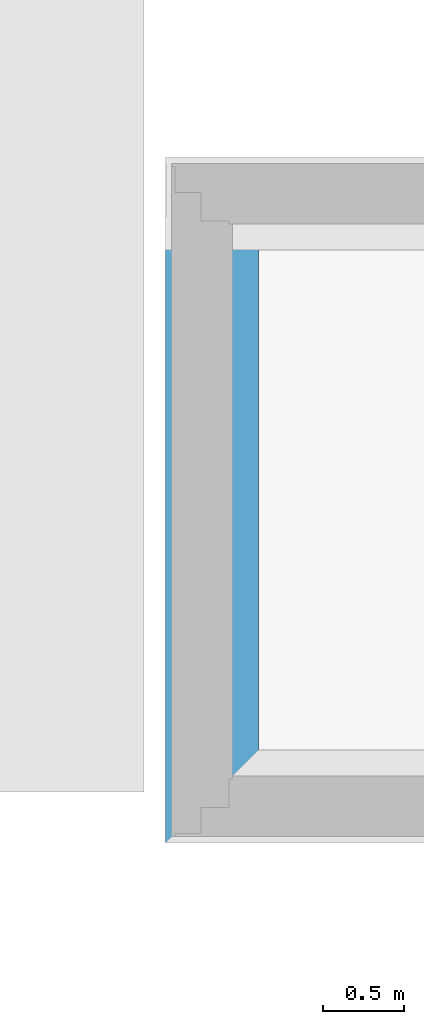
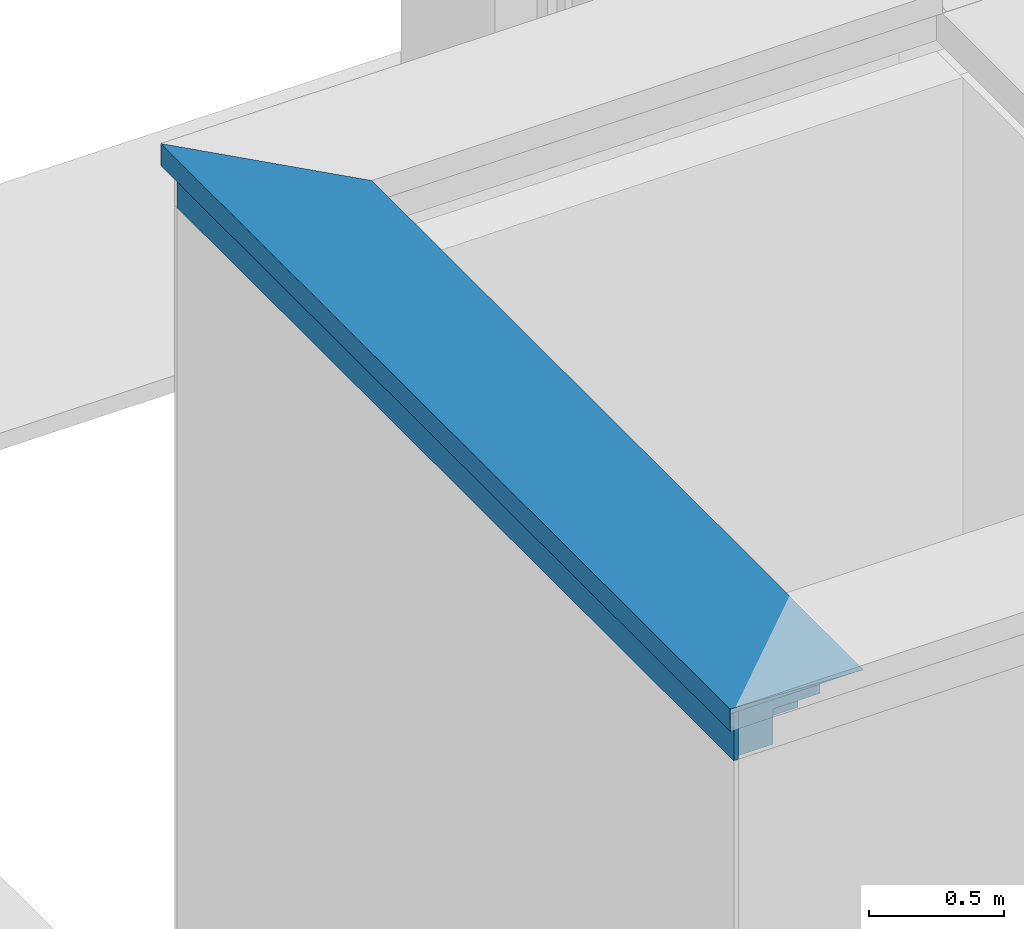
# One storey, part 1 of 28: 1 beam.
"""IFC4 building model written with IfcOpenShell, lengths in metres."""

from ifc_helpers import new_model, entity, si_unit, converted_unit, derived_unit, direction, frame, origin_with_axes, place, context, subcontext, project, spatial, triangles, material, constituent, constituent_set, type_object, element, save


model = new_model("IFC4")

# Units and contexts
model_context = context("Model", 3, precision=1e-05, world=origin_with_axes(), true_north=direction((-0.526213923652, 0.850352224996)))
body_context = subcontext(model_context, "Body", "Model", "MODEL_VIEW")
ifc_project = project(units=[si_unit("LENGTHUNIT", "METRE"), si_unit("AREAUNIT", "SQUARE_METRE"), si_unit("VOLUMEUNIT", "CUBIC_METRE"), converted_unit("PLANEANGLEUNIT", "DEGREE", entity("IfcPlaneAngleMeasure", 0.0174532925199), si_unit("PLANEANGLEUNIT", "RADIAN"), dimensions=[0, 0, 0, 0, 0, 0, 0]), si_unit("SOLIDANGLEUNIT", "STERADIAN"), converted_unit("TIMEUNIT", "Year", entity("IfcTimeMeasure", 31556926.0), si_unit("TIMEUNIT", "SECOND"), dimensions=[0, 0, 1, 0, 0, 0, 0]), si_unit("MASSUNIT", "GRAM", prefix="KILO"), si_unit("THERMODYNAMICTEMPERATUREUNIT", "DEGREE_CELSIUS"), si_unit("LUMINOUSINTENSITYUNIT", "LUMEN"), si_unit("ENERGYUNIT", "JOULE", prefix="MEGA"), derived_unit("THERMALCONDUCTANCEUNIT", [(si_unit("POWERUNIT", "WATT"), 1), (si_unit("LENGTHUNIT", "METRE"), -1), (si_unit("THERMODYNAMICTEMPERATUREUNIT", "KELVIN"), -1)]), derived_unit("SPECIFICHEATCAPACITYUNIT", [(si_unit("ENERGYUNIT", "JOULE"), 1), (si_unit("MASSUNIT", "GRAM", prefix="KILO"), -1), (si_unit("THERMODYNAMICTEMPERATUREUNIT", "KELVIN"), -1)]), derived_unit("MASSDENSITYUNIT", [(si_unit("MASSUNIT", "GRAM", prefix="KILO"), 1), (si_unit("VOLUMEUNIT", "CUBIC_METRE"), -1)])], contexts=[model_context])

# Site, building, storey, space
site_placement = place(None, origin_with_axes())
site = spatial("IfcSite", under=ifc_project, at=site_placement, Name="Gelände", CompositionType="ELEMENT")
building_placement = place(site_placement, origin_with_axes())
building = spatial("IfcBuilding", under=site, at=building_placement, Name="Haus vom Nikolaus", CompositionType="ELEMENT")
storey_placement = place(building_placement, origin_with_axes())
storey = spatial("IfcBuildingStorey", under=building, at=storey_placement, Name="EG", CompositionType="ELEMENT", Elevation=0.0)
space_placement = place(storey_placement, frame((-3.09538684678, 5.36483190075, 0.0), z_axis=(0.0, 0.0, 1.0), x_axis=(1.0, 0.0, 0.0)))
space = spatial("IfcSpace", under=storey, at=space_placement, Name="EG", CompositionType="ELEMENT")

# Beam
ifc_material_1 = material(Name="Metall, Stahl verzinkt")
ifc_constituent_1 = constituent(ifc_material_1, Name="Component 1")
ifc_material_2 = material(Name="Holz, Spanplatte")
ifc_constituent_2 = constituent(ifc_material_2, Name="Component 2")
ifc_material_3 = material(Name="Dämmung, hart XPS")
ifc_constituent_3 = constituent(ifc_material_3, Name="Component 3")
ifc_material_4 = material(Name="Holz, Bauholz")
ifc_constituent_4 = constituent(ifc_material_4, Name="Component 4")
ifc_material_5 = material(Name="Holz, Brettschichtholz")
ifc_constituent_5 = constituent(ifc_material_5, Name="Component 5")
ifc_material_6 = material(Name="MW Kalksandstein")
ifc_constituent_6 = constituent(ifc_material_6, Name="Component 6")
ifc_constituent_7 = constituent(ifc_material_3, Name="Component 7")
ifc_constituent_8 = constituent(ifc_material_4, Name="Component 8")
ifc_material_7 = material(Name="Verputz, Kalkzement")
ifc_constituent_9 = constituent(ifc_material_7, Name="Component 9")
ifc_constituent_set = constituent_set(constituents=[ifc_constituent_1, ifc_constituent_2, ifc_constituent_3, ifc_constituent_4, ifc_constituent_5, ifc_constituent_6, ifc_constituent_7, ifc_constituent_8, ifc_constituent_9], Name="Bauteil - Attika Mauerwerk")
beam_type = type_object("IfcBeamType", Name="Bauteil - Attika Mauerwerk 574 x 270", PredefinedType="NOTDEFINED")
beam_placement = place(space_placement, frame((0.180000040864, 3.97000013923, 3.52000000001), z_axis=(0.0, 0.0, 1.0), x_axis=(0.0, -1.0, 0.0)))
element("IfcBeam", 1, at=beam_placement, inside=space, type_object=beam_type, material=ifc_constituent_set, Name="Attika-Wand-002", ObjectType="Bauteil - Attika Mauerwerk 574 x 270", context=body_context, shape_type="Tessellation", body=[
    triangles([(4.00785989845, -0.215945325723, 0.249909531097), (4.00785989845, -0.217859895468, 0.249909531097), (4.00690260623, -0.216902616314, 0.248952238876), (-0.215945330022, -0.217859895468, 0.249909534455), (-0.216902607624, -0.216902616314, 0.248952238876), (4.00650608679, -0.214591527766, 0.251263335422), (-0.207733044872, -0.207733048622, 0.258121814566), (-0.214591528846, -0.214591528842, 0.251263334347), (3.99964761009, -0.207733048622, 0.258121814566), (4.00785989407, -0.214591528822, 0.251263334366), (4.00785989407, -0.179090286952, 0.348504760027), (4.00785989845, -0.217859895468, 0.349908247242), (4.00785989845, -0.216512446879, 0.348504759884), (4.00785989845, -0.216506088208, 0.251263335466), (-0.216510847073, -0.217859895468, 0.324039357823), (-0.179090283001, -0.217859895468, 0.348504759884), (-0.216511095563, -0.217859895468, 0.327839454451), (-0.214591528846, -0.217859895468, 0.251263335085), (-0.217859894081, -0.217859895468, 0.349908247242), (-0.21650608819, -0.217859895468, 0.251263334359), (-0.216506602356, -0.217859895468, 0.259126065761), (-0.216512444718, -0.217859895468, 0.348471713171), (-0.216512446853, -0.217859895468, 0.348504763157), (-0.216510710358, -0.217859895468, 0.321948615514), (-0.21651032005, -0.217859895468, 0.315979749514), (-0.216509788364, -0.217859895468, 0.30784881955), (-0.216509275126, -0.217859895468, 0.300000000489), (-0.214591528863, -0.216506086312, 0.251263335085), (-0.207733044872, -0.209647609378, 0.258121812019), (3.99864336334, -0.208643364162, 0.259126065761), (-0.208643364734, -0.208643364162, 0.259126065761), (4.00650608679, -0.216506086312, 0.251263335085), (-0.179090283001, -0.216512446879, 0.348504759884), (-0.216509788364, -0.216509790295, 0.30784881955), (-0.21651032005, -0.216510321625, 0.315979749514), (-0.216506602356, -0.216506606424, 0.259126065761), (-0.216509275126, -0.216509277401, 0.300000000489), (-0.21650608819, -0.216506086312, 0.251263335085), (-0.216510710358, -0.21651071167, 0.321948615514), (-0.216510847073, -0.216510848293, 0.324039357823), (-0.216511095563, -0.216511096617, 0.327839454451), (-0.216512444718, -0.216512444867, 0.348471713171), (-0.216512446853, -0.216512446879, 0.348504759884), (4.00651244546, -0.216512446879, 0.348504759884), (4.00651244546, -0.179090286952, 0.348504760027), (0.355692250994, 0.355692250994, 0.329145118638), (3.47173106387, 0.355692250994, 0.329145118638), (4.00563614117, -0.17817757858, 0.348471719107), (-0.17817741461, -0.17817741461, 0.348471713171), (-0.179090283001, -0.179090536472, 0.348504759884), (-0.178177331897, -0.215636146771, 0.348471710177), (4.00563614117, -0.215636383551, 0.348471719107), (3.43566155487, 0.354338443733, 0.327839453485), (3.43566155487, 0.355692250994, 0.327839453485), (3.43566155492, 0.355692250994, 0.230908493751), (3.43757612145, 0.355692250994, 0.230908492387), (3.43622231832, 0.355692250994, 0.229554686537), (3.43566155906, 0.355692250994, 0.24), (0.355692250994, 0.355692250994, 0.24), (3.43566155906, 0.355692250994, 0.248952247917), (0.355692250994, 0.355692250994, 0.248952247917), (0.355692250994, 0.355692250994, 0.251263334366), (3.43566155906, 0.355692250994, 0.251263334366), (3.43566155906, 0.355692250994, 0.259126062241), (0.355692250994, 0.355692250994, 0.300000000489), (0.355692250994, 0.355692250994, 0.259126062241), (0.355692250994, 0.355692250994, 0.321948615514), (3.43566155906, 0.355692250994, 0.315979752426), (0.355692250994, 0.355692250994, 0.315979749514), (3.43566155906, 0.355692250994, 0.321948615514), (3.43566155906, 0.355692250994, 0.324039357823), (0.355692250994, 0.355692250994, 0.324039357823), (0.355692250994, 0.355692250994, 0.327839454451), (3.43566155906, 0.355692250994, 0.307848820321), (0.355692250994, 0.355692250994, 0.30784881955), (3.43566155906, 0.355692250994, 0.30000000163), (3.43566155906, 0.355692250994, 0.238724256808), (0.355692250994, 0.355692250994, 0.238724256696), (0.355692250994, 0.355692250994, 0.230908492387), (0.355692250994, 0.355692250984, 0.229554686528), (0.355692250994, 0.318268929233, 0.329145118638), (0.355692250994, 0.354338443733, 0.327839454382), (3.43566155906, 0.354338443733, 0.324039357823), (3.43757612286, 0.354338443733, 0.230908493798), (3.43526504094, 0.35473497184, 0.228597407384), (3.43757612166, 0.352423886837, 0.230908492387), (0.35473497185, 0.35473497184, 0.228597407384), (0.355692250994, 0.354338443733, 0.230908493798), (0.355692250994, 0.353777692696, 0.229554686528), (0.355692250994, 0.352423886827, 0.230908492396), (0.355692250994, 0.354338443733, 0.238724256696), (0.355692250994, 0.354338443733, 0.24), (0.355692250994, 0.354338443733, 0.248952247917), (0.355692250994, 0.354338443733, 0.251263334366), (0.355692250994, 0.354338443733, 0.259126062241), (0.355692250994, 0.354338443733, 0.300000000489), (0.355692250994, 0.354338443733, 0.30784881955), (0.355692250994, 0.354338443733, 0.315979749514), (0.355692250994, 0.354338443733, 0.321948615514), (0.355692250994, 0.354338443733, 0.324039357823), (3.43566155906, 0.354338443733, 0.321948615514), (3.43566155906, 0.354338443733, 0.315979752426), (3.43566155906, 0.354338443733, 0.307848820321), (3.43566155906, 0.354338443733, 0.30000000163), (3.43566155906, 0.354338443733, 0.259126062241), (3.43566155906, 0.354338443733, 0.251263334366), (3.43566155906, 0.354338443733, 0.248952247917), (3.43566155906, 0.354338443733, 0.24), (3.43566155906, 0.354338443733, 0.238724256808), (3.43566155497, 0.354338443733, 0.230908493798), (3.44448155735, 0.3474330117, 0.237813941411), (3.44448155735, 0.345518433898, 0.237813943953), (0.347433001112, 0.345518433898, 0.237813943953), (0.354338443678, 0.35242388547, 0.23090849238), (0.354338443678, 0.354338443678, 0.23090849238), (3.44347730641, 0.346522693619, 0.238724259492), (0.34652269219, 0.346522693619, 0.238724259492)], [[1, 2, 3], [2, 4, 3], [5, 3, 4], [6, 1, 3], [7, 3, 8], [8, 3, 5], [6, 3, 9], [7, 9, 3], [1, 6, 10], [11, 12, 13], [14, 1, 10], [2, 13, 12], [13, 2, 14], [1, 14, 2], [15, 16, 17], [4, 2, 18], [12, 19, 16], [16, 2, 12], [20, 18, 21], [2, 16, 18], [17, 16, 22], [22, 16, 23], [24, 16, 15], [25, 16, 24], [26, 16, 25], [27, 16, 26], [21, 16, 27], [16, 21, 18], [28, 5, 4], [5, 28, 8], [28, 4, 18], [7, 8, 29], [28, 29, 8], [9, 7, 30], [31, 30, 7], [30, 6, 9], [6, 30, 32], [10, 32, 14], [10, 6, 32], [33, 34, 35], [33, 36, 37], [36, 28, 38], [33, 37, 34], [33, 35, 39], [33, 39, 40], [33, 40, 41], [33, 41, 42], [33, 42, 43], [36, 33, 28], [13, 14, 44], [32, 44, 14], [32, 28, 33], [44, 32, 33], [11, 44, 45], [44, 11, 13], [45, 12, 11], [46, 12, 47], [47, 12, 48], [48, 12, 45], [49, 12, 46], [50, 19, 12], [49, 50, 12], [19, 33, 16], [19, 50, 33], [43, 16, 33], [43, 23, 16], [43, 22, 23], [43, 42, 22], [42, 17, 22], [17, 42, 41], [41, 15, 17], [15, 41, 40], [40, 24, 15], [24, 40, 39], [39, 25, 24], [25, 39, 35], [35, 26, 25], [26, 35, 34], [34, 27, 26], [27, 34, 37], [21, 37, 36], [21, 27, 37], [36, 20, 21], [36, 38, 20], [20, 28, 18], [28, 20, 38], [31, 7, 29], [29, 32, 30], [29, 30, 31], [32, 29, 28], [51, 44, 33], [51, 52, 44], [52, 45, 44], [52, 48, 45], [52, 53, 48], [54, 47, 53], [53, 47, 48], [55, 56, 57], [58, 59, 60], [61, 60, 59], [62, 60, 61], [63, 62, 64], [60, 62, 63], [65, 64, 66], [67, 68, 69], [68, 67, 70], [70, 67, 71], [72, 71, 67], [71, 72, 54], [54, 72, 73], [54, 73, 46], [46, 47, 54], [69, 74, 75], [74, 69, 68], [76, 75, 74], [75, 76, 65], [64, 65, 76], [66, 64, 62], [77, 59, 58], [59, 77, 78], [55, 78, 77], [78, 55, 79], [79, 55, 80], [80, 55, 57], [81, 49, 46], [49, 81, 51], [50, 51, 33], [51, 50, 49], [81, 52, 51], [52, 81, 53], [82, 53, 81], [71, 53, 83], [71, 54, 53], [57, 84, 85], [85, 84, 86], [57, 56, 84], [80, 85, 87], [80, 57, 85], [80, 88, 79], [88, 89, 90], [88, 80, 89], [78, 88, 91], [78, 79, 88], [59, 91, 92], [59, 78, 91], [61, 92, 93], [61, 59, 92], [62, 93, 94], [62, 61, 93], [66, 94, 95], [66, 62, 94], [65, 95, 96], [65, 66, 95], [75, 96, 97], [75, 65, 96], [69, 97, 98], [69, 75, 97], [67, 98, 99], [67, 69, 98], [72, 99, 100], [72, 67, 99], [72, 82, 73], [82, 72, 100], [73, 82, 46], [46, 82, 81], [70, 83, 101], [70, 71, 83], [70, 102, 68], [70, 101, 102], [74, 102, 103], [74, 68, 102], [74, 104, 76], [74, 103, 104], [64, 104, 105], [64, 76, 104], [63, 105, 106], [63, 64, 105], [63, 107, 60], [107, 63, 106], [58, 107, 108], [58, 60, 107], [77, 108, 109], [77, 58, 108], [110, 77, 109], [110, 55, 77], [110, 56, 55], [56, 110, 84], [93, 107, 94], [103, 97, 104], [96, 104, 97], [97, 103, 98], [102, 98, 103], [98, 102, 99], [101, 99, 102], [99, 101, 100], [83, 100, 101], [53, 100, 83], [100, 53, 82], [95, 105, 96], [104, 96, 105], [105, 95, 106], [94, 106, 95], [106, 94, 107], [92, 107, 93], [107, 92, 108], [108, 92, 109], [91, 109, 92], [110, 91, 88], [91, 110, 109], [86, 111, 112], [111, 86, 84], [90, 113, 114], [113, 90, 112], [85, 89, 87], [85, 90, 89], [112, 90, 86], [90, 85, 86], [87, 89, 80], [115, 90, 114], [90, 115, 88], [84, 116, 111], [116, 88, 117], [116, 84, 110], [88, 116, 110], [117, 88, 115], [111, 116, 112], [116, 113, 112], [113, 116, 117], [114, 117, 115], [117, 114, 113]], closed=True),
    triangles([(4.00635948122, -0.216359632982, 0.327753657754), (0.354335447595, -0.216359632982, 0.327753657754), (3.89999600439, -0.109996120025, 0.324039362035), (0.354205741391, -0.109995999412, 0.324039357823), (4.00635962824, 0.354335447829, 0.327753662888), (3.89999600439, 0.354205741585, 0.324039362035), (4.00563614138, -0.215636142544, 0.348471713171), (0.354338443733, -0.216356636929, 0.327839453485), (4.00635663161, -0.216356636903, 0.327839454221), (-0.215636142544, -0.215636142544, 0.348471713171), (0.354338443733, 0.354338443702, 0.327839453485), (0.354205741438, 0.354205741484, 0.324039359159), (3.84012497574, -0.0501249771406, 0.321948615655), (0.354132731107, -0.050124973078, 0.321948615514), (3.84012497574, 0.354132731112, 0.321948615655), (4.00635663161, 0.354338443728, 0.327839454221), (3.66919894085, 0.353924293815, 0.315979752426), (0.353924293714, 0.353924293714, 0.315979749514), (3.43635964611, 0.353640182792, 0.307848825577), (0.353640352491, 0.353640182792, 0.307848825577), (0.354132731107, 0.354132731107, 0.321948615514), (3.66919894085, 0.120800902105, 0.315979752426), (0.353924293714, 0.12080098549, 0.315979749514)], [[1, 2, 3], [4, 3, 2], [5, 3, 6], [3, 5, 1], [7, 8, 9], [7, 10, 8], [9, 8, 1], [8, 2, 1], [4, 11, 12], [8, 11, 4], [8, 4, 2], [3, 4, 13], [14, 13, 4], [6, 13, 15], [13, 6, 3], [11, 16, 6], [11, 15, 17], [18, 19, 20], [11, 17, 19], [21, 19, 18], [12, 19, 21], [11, 19, 12], [11, 6, 15], [5, 6, 16], [1, 5, 9], [16, 9, 5], [16, 7, 9], [11, 7, 16], [7, 11, 10], [11, 8, 10], [14, 12, 21], [12, 14, 4], [13, 14, 22], [19, 23, 20], [19, 14, 23], [14, 19, 22], [15, 22, 17], [22, 15, 13], [17, 22, 19], [20, 23, 18], [14, 21, 23], [18, 23, 21]], closed=True),
    triangles([(0.31028294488, 0.2, 0.300000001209), (3.5899999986, 0.31028294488, 0.300000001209), (0.31028294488, 0.31028294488, 0.300000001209), (3.5899999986, 0.2, 0.300000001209), (3.5899999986, 0.31028294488, 0.259126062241), (3.5899999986, 0.2, 0.259126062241), (0.31028294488, 0.31028294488, 0.248952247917), (3.5899999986, 0.31028294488, 0.248952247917), (0.31028294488, 0.31028294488, 0.24), (3.5899999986, 0.31028294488, 0.238724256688), (0.31028294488, 0.31028294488, 0.238724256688), (3.5899999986, 0.31028294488, 0.24), (0.31028294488, 0.31028294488, 0.230908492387), (3.5899999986, 0.31028294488, 0.230908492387), (0.31028294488, 0.31028294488, 0.228597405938), (3.5899999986, 0.31028294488, 0.228597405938), (0.31028294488, 0.31028294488, 0.08), (3.5899999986, 0.31028294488, 0.0799999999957), (3.5899999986, 0.31028294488, 0.251263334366), (0.31028294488, 0.31028294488, 0.251263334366), (0.31028294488, 0.31028294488, 0.259126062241), (0.31028294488, 0.2, 0.259126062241), (3.5899999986, 0.2, 0.248952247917), (0.31028294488, 0.2, 0.251263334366), (0.31028294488, 0.2, 0.248952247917), (0.31028294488, 0.2, 0.238724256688), (3.5899999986, 0.2, 0.238724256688), (0.31028294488, 0.2, 0.24), (0.31028294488, 0.2, 0.230908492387), (3.5899999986, 0.2, 0.230908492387), (3.5899999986, 0.2, 0.228597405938), (0.31028294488, 0.2, 0.228597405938), (0.31028294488, 0.2, 0.08), (3.5899999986, 0.2, 0.0799999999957), (3.5899999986, 0.2, 0.251263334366), (3.5899999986, 0.2, 0.24)], [[1, 2, 3], [2, 1, 4], [4, 5, 2], [4, 6, 5], [7, 8, 9], [10, 11, 12], [9, 12, 11], [11, 10, 13], [14, 13, 10], [13, 14, 15], [16, 15, 14], [15, 16, 17], [17, 16, 18], [8, 7, 19], [12, 9, 8], [20, 19, 7], [19, 20, 5], [21, 5, 20], [5, 21, 2], [3, 2, 21], [21, 1, 3], [21, 22, 1], [22, 6, 1], [1, 6, 4], [23, 24, 25], [24, 6, 22], [26, 27, 28], [29, 30, 26], [30, 29, 31], [31, 29, 32], [31, 33, 34], [35, 6, 24], [33, 31, 32], [27, 26, 30], [36, 28, 27], [28, 36, 25], [23, 25, 36], [35, 24, 23], [35, 5, 6], [35, 19, 5], [23, 19, 35], [23, 8, 19], [36, 8, 23], [36, 12, 8], [27, 12, 36], [27, 10, 12], [14, 27, 30], [27, 14, 10], [31, 14, 30], [31, 16, 14], [34, 16, 31], [34, 18, 16], [33, 18, 34], [33, 17, 18], [33, 15, 17], [15, 33, 32], [15, 29, 13], [15, 32, 29], [13, 26, 11], [13, 29, 26], [11, 28, 9], [11, 26, 28], [9, 25, 7], [9, 28, 25], [7, 24, 20], [7, 25, 24], [20, 22, 21], [20, 24, 22]], closed=True),
    triangles([(0.180110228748, 0.180110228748, 0.313880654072), (3.66999999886, 0.12, 0.315979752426), (3.66999999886, 0.180110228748, 0.313880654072), (0.12, 0.12, 0.315979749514), (3.66999999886, 0.12, 0.30784881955), (3.66999999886, 0.180062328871, 0.30784881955), (0.180062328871, 0.180062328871, 0.30784881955), (3.66999999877, 0.18, 0.30000000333), (0.18, 0.18, 0.300000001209), (0.180110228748, 0.12, 0.313880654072), (3.66999999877, 0.12, 0.30000000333), (0.180062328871, 0.12, 0.30784881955), (0.18, 0.12, 0.300000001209)], [[1, 2, 3], [1, 4, 2], [5, 3, 2], [3, 5, 6], [6, 1, 3], [7, 8, 9], [1, 8, 7], [8, 1, 6], [10, 4, 1], [2, 10, 5], [10, 2, 4], [11, 10, 12], [11, 12, 13], [10, 11, 5], [8, 5, 11], [5, 8, 6], [13, 8, 11], [13, 9, 8], [9, 12, 7], [9, 13, 12], [10, 7, 12], [7, 10, 1]], closed=True),
    triangles([(0.2, 0.2, 0.251263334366), (3.95001867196, 0.2, 0.248952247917), (0.2, 0.2, 0.248952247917), (3.9500234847, 0.2, 0.251263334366), (3.95000002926, 0.2, 0.239999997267), (0.2, 0.2, 0.24), (0.2, 0.2, 0.259126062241), (3.95003985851, 0.2, 0.259126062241), (0.2, 0.2, 0.300000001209), (3.95012497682, 0.2, 0.300000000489), (3.95012497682, 0.18, 0.300000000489), (3.95012497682, -0.0501249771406, 0.300000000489), (3.95012497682, 0.12, 0.300000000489), (3.95003985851, -0.160039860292, 0.259126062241), (3.95012497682, -0.110124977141, 0.300000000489), (3.95012497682, -0.160124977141, 0.300000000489), (3.9500234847, -0.160023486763, 0.251263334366), (3.95001867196, -0.160018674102, 0.248952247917), (3.95000002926, -0.160000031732, 0.239999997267), (0.2, -0.160000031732, 0.24), (0.2, -0.160018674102, 0.248952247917), (0.2, -0.160023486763, 0.251263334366), (0.2, -0.160039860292, 0.259126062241), (0.2, -0.0501249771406, 0.300000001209), (0.2, -0.110124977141, 0.300000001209), (0.2, 0.18, 0.300000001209), (0.2, 0.12, 0.300000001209), (0.2, -0.160124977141, 0.300000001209)], [[1, 2, 3], [2, 1, 4], [5, 3, 2], [3, 5, 6], [4, 7, 8], [7, 4, 1], [9, 8, 7], [8, 9, 10], [11, 8, 10], [12, 8, 13], [13, 8, 11], [8, 12, 14], [15, 14, 12], [16, 14, 15], [17, 8, 14], [17, 4, 8], [18, 4, 17], [18, 2, 4], [19, 2, 18], [19, 5, 2], [20, 5, 19], [20, 6, 5], [20, 3, 6], [3, 20, 21], [21, 1, 3], [1, 21, 22], [22, 7, 1], [7, 22, 23], [24, 23, 25], [7, 26, 9], [27, 26, 7], [25, 23, 28], [23, 24, 7], [27, 7, 24], [26, 10, 9], [10, 26, 11], [26, 13, 11], [26, 27, 13], [27, 12, 13], [27, 24, 12], [24, 15, 12], [24, 25, 15], [25, 16, 15], [25, 28, 16], [23, 14, 28], [28, 14, 16], [18, 21, 19], [17, 22, 18], [19, 21, 20], [21, 18, 22], [17, 14, 23], [22, 17, 23]], closed=True),
    triangles([(0.2, 0.2, 0.24), (3.7899999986, 0.0, 0.24), (3.7899999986, 0.2, 0.24), (0.2, 0.0, 0.24), (3.7899999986, 0.2, 0.238724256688), (3.7899999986, 0.0, 0.238724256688), (0.2, 0.2, 0.238724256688), (0.2, 0.2, 0.230908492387), (3.7899999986, 0.2, 0.228597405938), (0.2, 0.2, 0.228597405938), (3.7899999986, 0.2, 0.230908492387), (3.7899999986, 0.2, 0.0800000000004), (0.2, 0.2, 0.0799999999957), (0.2, 0.0, 0.238724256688), (3.7899999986, 0.0, 0.228597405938), (0.2, 0.0, 0.230908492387), (0.2, 0.0, 0.228597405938), (3.7899999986, 0.0, 0.0800000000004), (0.2, 0.0, 0.0799999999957), (3.7899999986, 0.0, 0.230908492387)], [[1, 2, 3], [1, 4, 2], [2, 5, 3], [2, 6, 5], [7, 5, 8], [9, 10, 11], [8, 11, 10], [12, 10, 9], [10, 12, 13], [5, 7, 3], [11, 8, 5], [1, 3, 7], [7, 4, 1], [7, 14, 4], [14, 6, 4], [4, 6, 2], [15, 16, 17], [16, 6, 14], [18, 17, 19], [20, 6, 16], [15, 17, 18], [20, 16, 15], [20, 5, 6], [20, 11, 5], [15, 11, 20], [15, 9, 11], [18, 9, 15], [18, 12, 9], [19, 12, 18], [19, 13, 12], [19, 10, 13], [10, 19, 17], [10, 16, 8], [10, 17, 16], [8, 14, 7], [8, 16, 14]], closed=True),
    triangles([(0.0, 0.0, 0.24), (3.95000002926, -0.16, 0.240000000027), (3.95000002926, 0.0, 0.240000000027), (0.0, -0.16, 0.24), (3.95000002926, 0.0, 0.238724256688), (3.95000002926, -0.16, 0.238724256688), (0.0, 0.0, 0.238724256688), (0.0, 0.0, 0.230908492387), (3.95000002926, 0.0, 0.228597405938), (0.0, 0.0, 0.228597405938), (3.95000002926, 0.0, 0.230908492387), (0.0, 0.0, 0.0800000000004), (3.95000002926, 0.0, 0.08), (0.0, -0.16, 0.238724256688), (3.95000002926, -0.16, 0.228597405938), (0.0, -0.16, 0.230908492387), (0.0, -0.16, 0.228597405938), (0.0, -0.16, 0.0800000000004), (3.95000002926, -0.16, 0.08), (3.95000002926, -0.16, 0.230908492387)], [[1, 2, 3], [1, 4, 2], [2, 5, 3], [2, 6, 5], [7, 5, 8], [9, 10, 11], [8, 11, 10], [10, 9, 12], [12, 9, 13], [1, 5, 7], [11, 8, 5], [5, 1, 3], [7, 4, 1], [7, 14, 4], [14, 6, 4], [4, 6, 2], [15, 16, 17], [16, 6, 14], [15, 18, 19], [20, 6, 16], [18, 15, 17], [20, 16, 15], [20, 5, 6], [20, 11, 5], [15, 11, 20], [15, 9, 11], [19, 9, 15], [19, 13, 9], [18, 13, 19], [18, 12, 13], [18, 10, 12], [10, 18, 17], [10, 16, 8], [10, 17, 16], [8, 14, 7], [8, 16, 14]], closed=True),
    triangles([(-0.0501249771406, -0.0501249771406, 0.321948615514), (3.89999600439, -0.109995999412, 0.324039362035), (3.90000722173, -0.0501249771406, 0.321948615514), (-0.109995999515, -0.109995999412, 0.324039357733), (3.90000722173, -0.110007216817, 0.321948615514), (3.90003924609, -0.0501249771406, 0.315979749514), (-0.0501249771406, -0.0501249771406, 0.30784881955), (-0.0501249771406, -0.0501249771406, 0.300000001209), (3.90008287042, -0.0501249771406, 0.30784881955), (-0.0501249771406, -0.0501249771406, 0.315979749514), (3.90012498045, -0.0501249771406, 0.300000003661), (-0.0501249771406, -0.110007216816, 0.321948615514), (-0.0501249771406, -0.110039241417, 0.315979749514), (3.90003924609, -0.110039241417, 0.315979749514), (-0.0501249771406, -0.110124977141, 0.300000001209), (3.90008287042, -0.110082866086, 0.30784881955), (-0.0501249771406, -0.110082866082, 0.30784881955), (3.90012498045, -0.110124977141, 0.300000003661)], [[1, 2, 3], [1, 4, 2], [2, 5, 3], [6, 7, 3], [8, 6, 9], [7, 6, 8], [10, 3, 7], [11, 8, 9], [1, 3, 10], [12, 4, 1], [13, 2, 12], [2, 4, 12], [2, 13, 5], [14, 15, 16], [17, 5, 13], [14, 5, 17], [16, 15, 18], [15, 14, 17], [6, 5, 14], [5, 6, 3], [9, 14, 16], [14, 9, 6], [11, 16, 18], [16, 11, 9], [15, 11, 18], [15, 8, 11], [8, 17, 7], [8, 15, 17], [7, 13, 10], [7, 17, 13], [10, 12, 1], [10, 13, 12]], closed=True),
    triangles([(-0.160000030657, -0.180000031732, 0.228597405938), (-0.160000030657, -0.180000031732, 0.08), (3.97000003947, -0.180000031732, 0.0799999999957), (-0.160023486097, -0.180000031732, 0.251263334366), (3.97000002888, -0.180000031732, 0.259126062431), (-0.160039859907, -0.180000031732, 0.259126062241), (-0.160000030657, -0.180000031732, 0.238724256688), (3.97000003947, -0.180000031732, 0.248952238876), (-0.160000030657, -0.180000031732, 0.239999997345), (3.97000003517, -0.180000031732, 0.300000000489), (-0.160124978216, -0.180000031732, 0.300000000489), (3.97000002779, -0.180000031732, 0.251263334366), (-0.160018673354, -0.180000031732, 0.248952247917), (-0.160000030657, -0.180000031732, 0.230908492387), (-0.160000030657, -0.160000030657, 0.08), (3.97000003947, -0.160000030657, 0.0799999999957), (3.97000003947, -0.160000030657, 0.239999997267), (3.97000003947, -0.160018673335, 0.248952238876), (3.97000002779, -0.160023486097, 0.251263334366), (3.97000002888, -0.160039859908, 0.259126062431), (3.97000003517, -0.160124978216, 0.300000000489), (-0.160124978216, -0.160124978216, 0.300000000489), (-0.160039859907, -0.160039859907, 0.259126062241), (-0.160023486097, -0.160023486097, 0.251263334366), (-0.160018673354, -0.160018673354, 0.248952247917), (-0.160000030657, -0.160000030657, 0.239999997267), (-0.160000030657, -0.160000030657, 0.238724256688), (-0.160000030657, -0.160000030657, 0.230908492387), (-0.160000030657, -0.160000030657, 0.228597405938)], [[1, 2, 3], [4, 5, 6], [7, 8, 9], [10, 6, 5], [6, 10, 11], [5, 4, 12], [13, 12, 4], [12, 13, 8], [9, 8, 13], [14, 8, 7], [1, 8, 14], [8, 1, 3], [15, 3, 2], [15, 16, 3], [17, 3, 16], [18, 8, 17], [3, 17, 8], [19, 8, 18], [8, 19, 12], [20, 12, 19], [12, 20, 5], [21, 5, 20], [5, 21, 10], [21, 11, 10], [21, 22, 11], [22, 6, 11], [22, 23, 6], [23, 4, 6], [23, 24, 4], [24, 13, 4], [24, 25, 13], [25, 9, 13], [25, 26, 9], [26, 7, 9], [26, 27, 7], [27, 14, 7], [27, 28, 14], [28, 1, 14], [28, 29, 1], [29, 2, 1], [29, 15, 2], [17, 29, 28], [29, 16, 15], [17, 28, 27], [17, 27, 26], [29, 17, 16], [18, 25, 19], [26, 18, 17], [25, 18, 26], [24, 19, 25], [21, 23, 22], [20, 24, 23], [20, 23, 21], [24, 20, 19]], closed=True),
])

save(model, "model.ifc")
